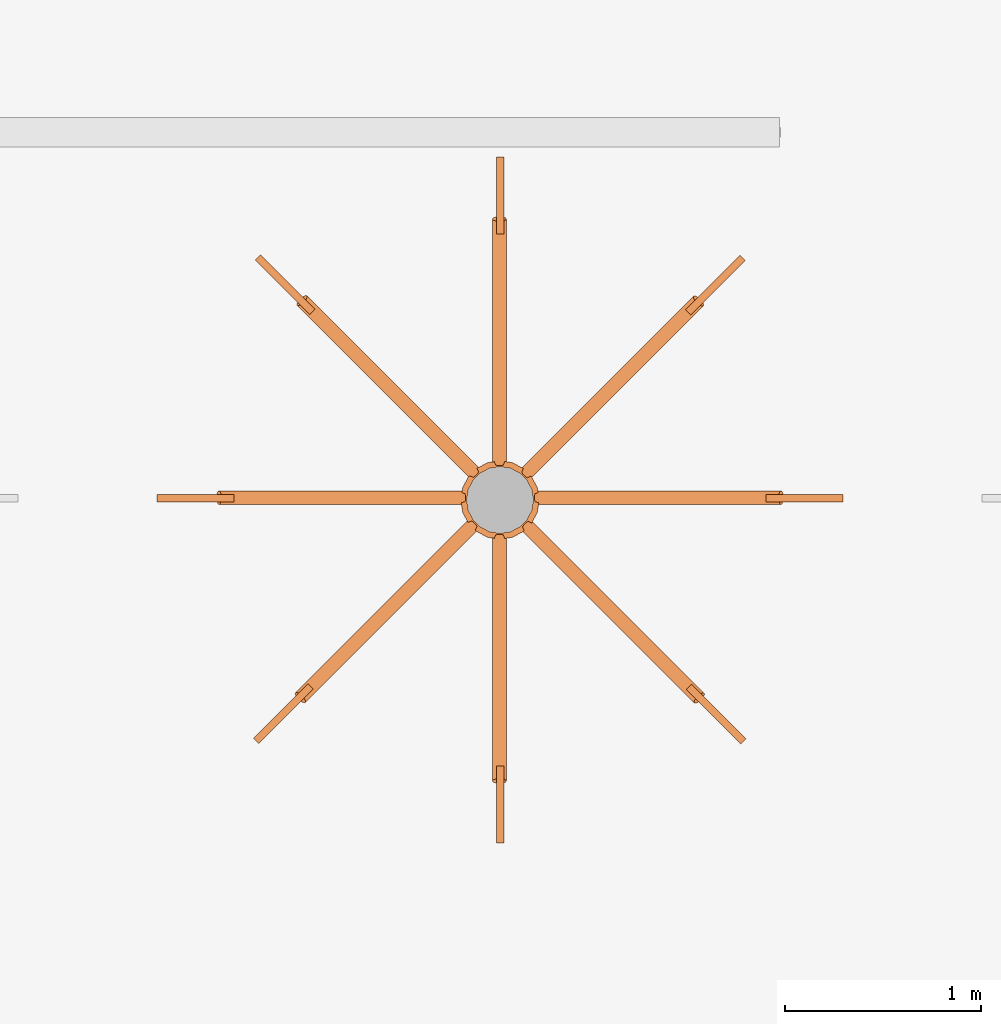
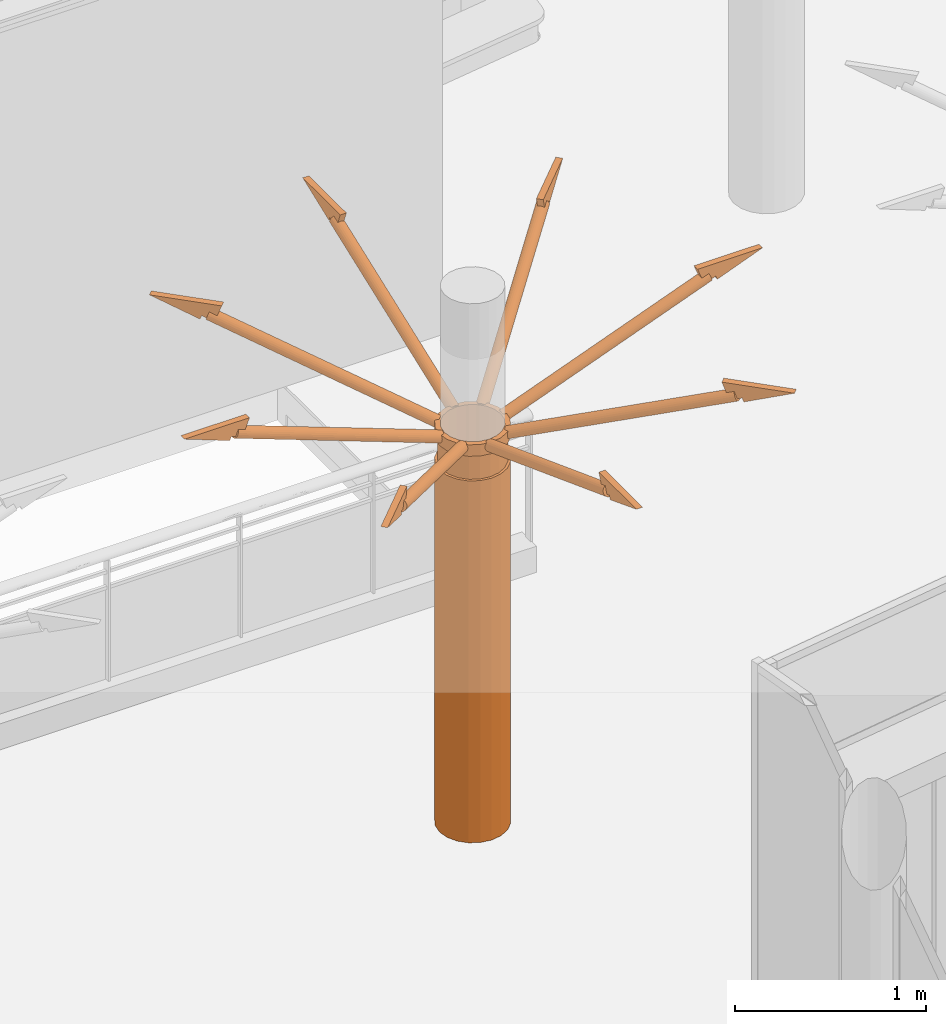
# One storey, part 61 of 65: 1 proxy.
"""IFC4 building model written with IfcOpenShell, lengths in metres."""

from ifc_helpers import new_model, entity, si_unit, converted_unit, derived_unit, direction, frame, origin, place, context, subcontext, project, spatial, indexed_curve, outline, extrude, source, transform, mapped, material, constituent, constituent_set, type_object, type_shapes, element, save


model = new_model("IFC4")

# Units and contexts
model_context = context("Model", 3, precision=1e-05, world=origin(), true_north=direction((6.12303176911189e-17, 1.0)))
body_context = subcontext(model_context, "Body", "Model", "MODEL_VIEW")
ifc_project = project(units=[si_unit("LENGTHUNIT", "METRE"), si_unit("AREAUNIT", "SQUARE_METRE"), si_unit("VOLUMEUNIT", "CUBIC_METRE"), converted_unit("PLANEANGLEUNIT", "DEGREE", entity("IfcRatioMeasure", 0.0174532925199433), si_unit("PLANEANGLEUNIT", "RADIAN"), dimensions=[0, 0, 0, 0, 0, 0, 0]), si_unit("MASSUNIT", "GRAM", prefix="KILO"), derived_unit("MASSDENSITYUNIT", [(si_unit("MASSUNIT", "GRAM", prefix="KILO"), 1), (si_unit("LENGTHUNIT", "METRE"), -3)]), derived_unit("MOMENTOFINERTIAUNIT", [(si_unit("LENGTHUNIT", "METRE"), 4)]), si_unit("TIMEUNIT", "SECOND"), si_unit("FREQUENCYUNIT", "HERTZ"), si_unit("THERMODYNAMICTEMPERATUREUNIT", "DEGREE_CELSIUS"), derived_unit("THERMALTRANSMITTANCEUNIT", [(si_unit("MASSUNIT", "GRAM", prefix="KILO"), 1), (si_unit("THERMODYNAMICTEMPERATUREUNIT", "KELVIN"), -1), (si_unit("TIMEUNIT", "SECOND"), -3)]), derived_unit("VOLUMETRICFLOWRATEUNIT", [(si_unit("LENGTHUNIT", "METRE"), 3), (si_unit("TIMEUNIT", "SECOND"), -1)]), si_unit("ELECTRICCURRENTUNIT", "AMPERE"), si_unit("ELECTRICVOLTAGEUNIT", "VOLT"), si_unit("POWERUNIT", "WATT"), si_unit("FORCEUNIT", "NEWTON", prefix="KILO"), si_unit("ILLUMINANCEUNIT", "LUX"), si_unit("LUMINOUSFLUXUNIT", "LUMEN"), si_unit("LUMINOUSINTENSITYUNIT", "CANDELA"), derived_unit("USERDEFINED", [(si_unit("MASSUNIT", "GRAM", prefix="KILO"), -1), (si_unit("LENGTHUNIT", "METRE"), -2), (si_unit("TIMEUNIT", "SECOND"), 3), (si_unit("LUMINOUSFLUXUNIT", "LUMEN"), 1)]), derived_unit("LINEARVELOCITYUNIT", [(si_unit("LENGTHUNIT", "METRE"), 1), (si_unit("TIMEUNIT", "SECOND"), -1)]), si_unit("PRESSUREUNIT", "PASCAL"), derived_unit("USERDEFINED", [(si_unit("LENGTHUNIT", "METRE"), -2), (si_unit("MASSUNIT", "GRAM", prefix="KILO"), 1), (si_unit("TIMEUNIT", "SECOND"), -2)]), derived_unit("LINEARFORCEUNIT", [(si_unit("MASSUNIT", "GRAM", prefix="KILO"), 1), (si_unit("LENGTHUNIT", "METRE"), 1), (si_unit("TIMEUNIT", "SECOND"), -2), (si_unit("LENGTHUNIT", "METRE"), -1)]), derived_unit("PLANARFORCEUNIT", [(si_unit("MASSUNIT", "GRAM", prefix="KILO"), 1), (si_unit("LENGTHUNIT", "METRE"), 1), (si_unit("TIMEUNIT", "SECOND"), -2), (si_unit("LENGTHUNIT", "METRE"), -2)])], contexts=[model_context])

# Site, building, storey
site_placement = place(None, origin())
site = spatial("IfcSite", under=ifc_project, at=site_placement, Name="Default", CompositionType="ELEMENT")
building_placement = place(site_placement, origin())
building = spatial("IfcBuilding", under=site, at=building_placement, Name="HOTEL CONSULAIRE BOULOGNE SUR MER", CompositionType="ELEMENT")
storey_placement = place(building_placement, origin())
storey = spatial("IfcBuildingStorey", under=building, at=storey_placement, Name="Niveau 0", CompositionType="ELEMENT", Elevation=1.31981936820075e-13)

# Proxy
ifc_material_1 = material(Name="Bronze", Category="Métal")
ifc_constituent_1 = constituent(ifc_material_1, Name="Bronze", Category="Matériaux")
ifc_material_2 = material(Name="Acier, carbone", Category="Métal")
ifc_constituent_2 = constituent(ifc_material_2, Name="Acier, carbone", Category="Matériaux")
ifc_constituent_set = constituent_set(constituents=[ifc_constituent_1, ifc_constituent_2], Name="MaterialConstituentSet")
building_element_proxy_type = type_object("IfcBuildingElementProxyType", Name="Modèles génériques 2:Modèles génériques 1", PredefinedType="NOTDEFINED", material=ifc_material_1)
shared_shape = source(origin(), body_context, "Body", "SweptSolid", [
    extrude(outline(indexed_curve([(-0.277248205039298, -0.059776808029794), (0.115160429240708, -0.059776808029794), (0.0851913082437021, 0.0182954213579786), (0.0431801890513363, 0.00216886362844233), (0.0317934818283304, 0.0318322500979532), (0.00544099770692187, 0.0219587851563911), (-0.00351820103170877, 0.0452982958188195), (-0.277248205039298, -0.059776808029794)], self_intersect=False)), frame((0.713250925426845, 0.701500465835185, 2.99602341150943), z_axis=(-0.70710678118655, 0.707106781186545, 0.0), x_axis=(0.707106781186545, 0.70710678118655, 0.0)), (0.0, 0.0, 1.0), 0.03781952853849),
    extrude(outline(indexed_curve([(0.035, -1.04985600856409e-15), (0.0332869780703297, 0.0108155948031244), (0.028315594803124, 0.0205724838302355), (0.0205724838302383, 0.0283155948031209), (0.0108155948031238, 0.0332869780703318), (1.1197790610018e-15, 0.0350000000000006), (-0.0108155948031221, 0.0332869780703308), (-0.0205724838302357, 0.028315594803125), (-0.0283155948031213, 0.0205724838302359), (-0.0332869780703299, 0.0108155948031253), (-0.0349999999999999, 1.43372394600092e-15), (-0.0332869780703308, -0.0108155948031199), (-0.028315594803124, -0.0205724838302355), (-0.0205724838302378, -0.0283155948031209), (-0.0108155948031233, -0.0332869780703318), (-6.12763902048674e-16, -0.0350000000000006), (0.0108155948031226, -0.0332869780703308), (0.0205724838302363, -0.0283155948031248), (0.0283155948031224, -0.0205724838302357), (0.0332869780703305, -0.0108155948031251), (0.035, -1.04985600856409e-15)], self_intersect=False)), frame((0.728885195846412, 0.739260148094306, 2.98010318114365), z_axis=(0.662156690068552, 0.662156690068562, -0.350851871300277), x_axis=(-0.248089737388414, -0.248089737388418, -0.936430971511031)), (0.0, 0.0, 1.0), 1.32737404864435),
    extrude(outline(indexed_curve([(-0.280255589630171, -0.0435504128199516), (0.0129489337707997, -0.0435504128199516), (0.0129489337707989, -0.0185504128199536), (0.0410894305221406, -0.018324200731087), (0.0410894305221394, 0.0134495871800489), (0.0860894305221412, 0.013449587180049), (0.0860894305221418, 0.0970762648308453), (-0.280255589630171, -0.0435504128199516)], self_intersect=False)), frame((1.7274101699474, 0.277248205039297, 2.99602341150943), z_axis=(1.0, 0.0, 0.0), x_axis=(0.0, 0.933580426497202, -0.358367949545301)), (0.0, 0.0, 1.0), 0.0378195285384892),
    extrude(outline(indexed_curve([(0.0349999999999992, 8.67182975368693e-17), (0.0332869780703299, 0.0108155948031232), (0.0283155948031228, 0.0205724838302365), (0.0205724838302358, 0.0283155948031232), (0.0108155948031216, 0.0332869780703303), (-5.93728164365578e-16, 0.035), (-0.0108155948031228, 0.0332869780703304), (-0.0205724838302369, 0.0283155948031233), (-0.0283155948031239, 0.0205724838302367), (-0.0332869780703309, 0.0108155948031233), (-0.0349999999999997, 1.83998484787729e-16), (-0.0332869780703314, -0.0108155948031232), (-0.0283155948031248, -0.0205724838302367), (-0.0205724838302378, -0.0283155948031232), (-0.0108155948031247, -0.0332869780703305), (-9.27317312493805e-16, -0.0349999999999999), (0.0108155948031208, -0.0332869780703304), (0.0205724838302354, -0.0283155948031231), (0.0283155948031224, -0.0205724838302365), (0.0332869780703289, -0.010815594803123), (0.0349999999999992, 8.67182975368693e-17)], self_intersect=False)), frame((1.74305519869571, 1.5579976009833, 2.51439151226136), z_axis=(0.0, -0.936430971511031, 0.350851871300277), x_axis=(0.0, -0.350851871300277, -0.936430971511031)), (0.0, 0.0, 1.0), 1.32737404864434),
    extrude(outline(indexed_curve([(-0.280255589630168, -0.0435504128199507), (0.0129489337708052, -0.0435504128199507), (0.0129489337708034, -0.0185504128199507), (0.0410894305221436, -0.0183242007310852), (0.0410894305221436, 0.0134495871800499), (0.0860894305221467, 0.0134495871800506), (0.0860894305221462, 0.097076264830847), (-0.280255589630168, -0.0435504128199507)], self_intersect=False)), frame((2.77607438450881, 0.699368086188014, 2.99602341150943), z_axis=(0.707106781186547, 0.707106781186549, 0.0), x_axis=(-0.6601410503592, 0.660141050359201, -0.358367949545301)), (0.0, 0.0, 1.0), 0.03781952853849),
    extrude(outline(indexed_curve([(0.035, -1.04985600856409e-15), (0.033286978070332, 0.0108155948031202), (0.028315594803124, 0.0205724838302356), (0.0205724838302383, 0.028315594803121), (0.0108155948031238, 0.0332869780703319), (1.186400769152e-15, 0.0350000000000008), (-0.0108155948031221, 0.033286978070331), (-0.0205724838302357, 0.028315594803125), (-0.0283155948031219, 0.0205724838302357), (-0.0332869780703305, 0.0108155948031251), (-0.0349999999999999, 1.43372394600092e-15), (-0.0332869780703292, -0.0108155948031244), (-0.0283155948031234, -0.0205724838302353), (-0.0205724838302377, -0.0283155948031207), (-0.0108155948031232, -0.0332869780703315), (-5.45084706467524e-16, -0.0350000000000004), (0.0108155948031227, -0.0332869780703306), (0.0205724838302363, -0.0283155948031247), (0.0283155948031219, -0.0205724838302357), (0.0332869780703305, -0.0108155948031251), (0.035, -1.04985600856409e-15)], self_intersect=False)), frame((1.88151050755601, 1.61605737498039, 2.51439151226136), z_axis=(0.662156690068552, -0.662156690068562, 0.350851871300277), x_axis=(0.248089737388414, -0.248089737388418, -0.936430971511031)), (0.0, 0.0, 1.0), 1.32737404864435),
    extrude(outline(indexed_curve([(-0.277248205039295, -0.0597768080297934), (0.115160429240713, -0.0597768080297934), (0.0851913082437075, 0.0182954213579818), (0.0431801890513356, 0.00216886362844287), (0.031793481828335, 0.0318322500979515), (0.00544099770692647, 0.02195878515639), (-0.00351820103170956, 0.0452982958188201), (-0.277248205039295, -0.0597768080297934)], self_intersect=False)), frame((2.77184292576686, 2.7963210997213, 2.99602341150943), z_axis=(0.707106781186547, -0.707106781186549, 0.0), x_axis=(-0.707106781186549, -0.707106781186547, 0.0)), (0.0, 0.0, 1.0), 0.0378195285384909),
    extrude(outline(indexed_curve([(0.035, 1.16429366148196e-15), (0.03328697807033, 0.0108155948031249), (0.0283155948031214, 0.0205724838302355), (0.0205724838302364, 0.0283155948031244), (0.0108155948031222, 0.0332869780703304), (-1.00451293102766e-15, 0.0350000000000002), (-0.0108155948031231, 0.0332869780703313), (-0.0205724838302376, 0.0283155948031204), (-0.0283155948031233, 0.0205724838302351), (-0.0332869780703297, 0.0108155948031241), (-0.0349999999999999, -1.26052501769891e-15), (-0.03328697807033, -0.0108155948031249), (-0.028315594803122, -0.0205724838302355), (-0.0205724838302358, -0.0283155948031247), (-0.0108155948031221, -0.0332869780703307), (1.10497423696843e-15, -0.0350000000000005), (0.0108155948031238, -0.0332869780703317), (0.0205724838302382, -0.0283155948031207), (0.0283155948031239, -0.0205724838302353), (0.0332869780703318, -0.0108155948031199), (0.035, 1.16429366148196e-15)], self_intersect=False)), frame((1.87727904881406, 1.87963181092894, 2.51439151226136), z_axis=(0.662156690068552, 0.662156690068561, 0.350851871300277), x_axis=(0.248089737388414, 0.248089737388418, -0.936430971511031)), (0.0, 0.0, 1.0), 1.32737404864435),
    extrude(outline(indexed_curve([(-0.277248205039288, -0.0597768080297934), (0.115160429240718, -0.0597768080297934), (0.0851913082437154, 0.0182954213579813), (0.0431801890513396, 0.00216886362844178), (0.0317934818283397, 0.0318322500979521), (0.0054409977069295, 0.0219587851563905), (-0.00351820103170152, 0.045298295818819), (-0.277248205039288, -0.0597768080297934)], self_intersect=False)), frame((1.72741016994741, 3.21418715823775, 2.99602341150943), z_axis=(1.0, 0.0, 0.0), x_axis=(0.0, -1.0, 0.0)), (0.0, 0.0, 1.0), 0.0378195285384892),
    extrude(outline(indexed_curve([(0.0349999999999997, -6.68832189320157e-17), (0.0332869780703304, 0.010815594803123), (0.0283155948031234, 0.0205724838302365), (0.0205724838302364, 0.0283155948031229), (0.0108155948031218, 0.0332869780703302), (6.68779268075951e-17, 0.0349999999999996), (-0.0108155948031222, 0.0332869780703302), (-0.0205724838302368, 0.0283155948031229), (-0.0283155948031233, 0.0205724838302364), (-0.0332869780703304, 0.0108155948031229), (-0.0349999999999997, -2.03833563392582e-16), (-0.0332869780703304, -0.0108155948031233), (-0.0283155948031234, -0.0205724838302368), (-0.0205724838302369, -0.0283155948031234), (-0.0108155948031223, -0.0332869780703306), (-6.68779268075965e-17, -0.0350000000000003), (0.0108155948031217, -0.0332869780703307), (0.0205724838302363, -0.0283155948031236), (0.0283155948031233, -0.0205724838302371), (0.0332869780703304, -0.0108155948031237), (0.0349999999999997, -6.68832189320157e-17)], self_intersect=False)), frame((1.74305519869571, 1.93343776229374, 2.51439151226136), z_axis=(0.0, 0.936430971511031, 0.350851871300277), x_axis=(0.0, 0.350851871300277, -0.936430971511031)), (0.0, 0.0, 1.0), 1.32737404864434),
    extrude(outline(indexed_curve([(-0.277248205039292, -0.059776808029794), (0.115160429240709, -0.059776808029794), (0.0851913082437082, 0.0182954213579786), (0.0431801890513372, 0.00216886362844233), (0.0317934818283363, 0.0318322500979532), (0.005440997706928, 0.0219587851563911), (-0.00351820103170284, 0.0452982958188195), (-0.277248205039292, -0.059776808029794)], self_intersect=False)), frame((0.694971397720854, 2.77170009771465, 2.99602341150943), z_axis=(0.707106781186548, 0.707106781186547, 0.0), x_axis=(0.707106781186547, -0.707106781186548, 0.0)), (0.0, 0.0, 1.0), 0.0378195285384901),
    extrude(outline(indexed_curve([(0.0349999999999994, -1.22011148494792e-15), (0.0332869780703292, 0.0108155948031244), (0.028315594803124, 0.0205724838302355), (0.0205724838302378, 0.0283155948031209), (0.0108155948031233, 0.0332869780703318), (5.94786615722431e-16, 0.0350000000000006), (-0.0108155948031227, 0.0332869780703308), (-0.0205724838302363, 0.0283155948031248), (-0.0283155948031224, 0.0205724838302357), (-0.0332869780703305, 0.0108155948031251), (-0.0350000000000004, 1.22011148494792e-15), (-0.0332869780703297, -0.0108155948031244), (-0.0283155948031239, -0.0205724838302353), (-0.0205724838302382, -0.0283155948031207), (-0.0108155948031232, -0.0332869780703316), (-1.10180177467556e-15, -0.0350000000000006), (0.0108155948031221, -0.0332869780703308), (0.0205724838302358, -0.0283155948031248), (0.0283155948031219, -0.0205724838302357), (0.03328697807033, -0.0108155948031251), (0.0349999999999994, -1.22011148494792e-15)], self_intersect=False)), frame((1.6162777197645, 1.88175325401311, 2.51439151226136), z_axis=(-0.662156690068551, 0.662156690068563, 0.350851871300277), x_axis=(-0.248089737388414, 0.248089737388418, -0.936430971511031)), (0.0, 0.0, 1.0), 1.32737404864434),
    extrude(outline(indexed_curve([(-0.280255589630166, -0.0435504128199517), (0.0129489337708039, -0.0435504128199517), (0.0129489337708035, -0.0185504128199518), (0.0410894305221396, -0.0183242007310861), (0.0410894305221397, 0.0134495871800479), (0.08608943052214, 0.0134495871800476), (0.0860894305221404, 0.0970762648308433), (-0.280255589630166, -0.0435504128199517)], self_intersect=False)), frame((3.21418736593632, 1.73554318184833, 2.99602341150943), z_axis=(0.0, 1.0, 0.0), x_axis=(-0.933580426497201, 0.0, -0.358367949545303)), (0.0, 0.0, 1.0), 0.0378195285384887),
    extrude(outline(indexed_curve([(0.0349999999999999, -4.16541532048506e-17), (0.0332869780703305, 0.0108155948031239), (0.0283155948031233, 0.0205724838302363), (0.0205724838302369, 0.0283155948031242), (0.0108155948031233, 0.0332869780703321), (-5.83659163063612e-18, 0.0350000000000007), (-0.0108155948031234, 0.0332869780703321), (-0.0205724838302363, 0.0283155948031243), (-0.0283155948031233, 0.0205724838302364), (-0.0332869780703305, 0.0108155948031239), (-0.0349999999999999, 4.16541532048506e-17), (-0.0332869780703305, -0.0108155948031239), (-0.0283155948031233, -0.0205724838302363), (-0.0205724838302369, -0.0283155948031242), (-0.0108155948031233, -0.0332869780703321), (5.83659163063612e-18, -0.0350000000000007), (0.0108155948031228, -0.0332869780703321), (0.0205724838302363, -0.0283155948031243), (0.0283155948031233, -0.0205724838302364), (0.0332869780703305, -0.0108155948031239), (0.0349999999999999, -4.16541532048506e-17)], self_intersect=False)), frame((1.93343796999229, 1.75771768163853, 2.51439151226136), z_axis=(0.936430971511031, 0.0, 0.350851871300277), x_axis=(0.350851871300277, 0.0, -0.936430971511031)), (0.0, 0.0, 1.0), 1.32737404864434),
    extrude(outline(indexed_curve([(-0.277248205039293, -0.059776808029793), (0.115160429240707, -0.059776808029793), (0.0851913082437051, 0.0182954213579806), (0.0431801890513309, 0.00216886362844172), (0.0317934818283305, 0.0318322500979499), (0.00544099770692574, 0.0219587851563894), (-0.00351820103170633, 0.0452982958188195), (-0.277248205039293, -0.059776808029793)], self_intersect=False)), frame((0.277248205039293, 1.73554318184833, 2.99602341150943), z_axis=(0.0, 1.0, 0.0), x_axis=(1.0, 0.0, 0.0)), (0.0, 0.0, 1.0), 0.0378195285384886),
    extrude(outline(indexed_curve([(0.0349999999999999, 4.16541532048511e-17), (0.0332869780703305, 0.0108155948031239), (0.0283155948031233, 0.0205724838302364), (0.0205724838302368, 0.0283155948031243), (0.0108155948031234, 0.0332869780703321), (5.33273364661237e-17, 0.0350000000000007), (-0.0108155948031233, 0.0332869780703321), (-0.0205724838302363, 0.0283155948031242), (-0.0283155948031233, 0.0205724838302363), (-0.0332869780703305, 0.0108155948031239), (-0.0349999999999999, -4.16541532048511e-17), (-0.0332869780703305, -0.0108155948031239), (-0.0283155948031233, -0.0205724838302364), (-0.0205724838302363, -0.0283155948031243), (-0.0108155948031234, -0.0332869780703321), (4.16541532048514e-17, -0.0350000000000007), (0.0108155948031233, -0.0332869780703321), (0.0205724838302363, -0.0283155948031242), (0.0283155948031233, -0.0205724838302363), (0.0332869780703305, -0.0108155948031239), (0.0349999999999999, 4.16541532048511e-17)], self_intersect=False)), frame((1.55799760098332, 1.75771768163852, 2.51439151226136), z_axis=(-0.936430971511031, 0.0, 0.350851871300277), x_axis=(-0.350851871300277, 0.0, -0.936430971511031)), (0.0, 0.0, 1.0), 1.32737404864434),
    extrude(outline(indexed_curve([(0.199999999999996, 0.0), (0.190211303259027, 0.0618033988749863), (0.161803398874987, 0.11755705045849), (0.117557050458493, 0.161803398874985), (0.0618033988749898, 0.190211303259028), (2.16573425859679e-15, 0.199999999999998), (-0.0618033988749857, 0.190211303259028), (-0.11755705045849, 0.16180339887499), (-0.161803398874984, 0.117557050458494), (-0.190211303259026, 0.0618033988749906), (-0.199999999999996, 4.33146851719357e-15), (-0.190211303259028, -0.0618033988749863), (-0.161803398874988, -0.11755705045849), (-0.117557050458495, -0.161803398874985), (-0.0618033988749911, -0.190211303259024), (-2.97788460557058e-15, -0.199999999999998), (0.0618033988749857, -0.190211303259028), (0.11755705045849, -0.161803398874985), (0.161803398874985, -0.117557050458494), (0.190211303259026, -0.0618033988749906), (0.199999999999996, 0.0)], self_intersect=False), holes=[indexed_curve([(-0.169999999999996, 0.0), (-0.161679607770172, 0.0525328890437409), (-0.137532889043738, 0.0999234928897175), (-0.0999234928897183, 0.137532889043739), (-0.0525328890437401, 0.161679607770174), (-5.41433564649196e-16, 0.169999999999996), (0.0525328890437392, 0.161679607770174), (0.0999234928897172, 0.137532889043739), (0.137532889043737, 0.0999234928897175), (0.161679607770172, 0.0525328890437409), (0.169999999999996, 0.0), (0.161679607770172, -0.0525328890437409), (0.137532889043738, -0.0999234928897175), (0.0999234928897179, -0.137532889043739), (0.0525328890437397, -0.161679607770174), (0.0, -0.169999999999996), (-0.0525328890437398, -0.161679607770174), (-0.0999234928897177, -0.137532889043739), (-0.137532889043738, -0.0999234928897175), (-0.161679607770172, -0.0525328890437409), (-0.169999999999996, 0.0)], self_intersect=False)]), frame((1.74571778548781, 1.74571768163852, 2.46815840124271)), (0.0, 0.0, 1.0), 0.073394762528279),
    extrude(outline(indexed_curve([(-0.184999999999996, 0.0), (-0.175945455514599, -0.0571681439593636), (-0.149668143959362, -0.108740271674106), (-0.108740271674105, -0.14966814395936), (-0.0571681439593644, -0.175945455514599), (-8.12150346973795e-16, -0.184999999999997), (0.0571681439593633, -0.175945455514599), (0.108740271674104, -0.149668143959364), (0.149668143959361, -0.108740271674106), (0.175945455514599, -0.0571681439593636), (0.184999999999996, 0.0), (0.175945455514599, 0.0571681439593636), (0.149668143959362, 0.108740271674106), (0.108740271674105, 0.14966814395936), (0.057168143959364, 0.175945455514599), (0.0, 0.184999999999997), (-0.0571681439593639, 0.175945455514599), (-0.108740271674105, 0.14966814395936), (-0.149668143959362, 0.108740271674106), (-0.175945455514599, 0.0571681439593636), (-0.184999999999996, 0.0)], self_intersect=False), holes=[indexed_curve([(0.169999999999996, 0.0), (0.161679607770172, -0.0525328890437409), (0.137532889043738, -0.0999234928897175), (0.0999234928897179, -0.137532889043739), (0.0525328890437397, -0.161679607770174), (0.0, -0.169999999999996), (-0.0525328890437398, -0.161679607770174), (-0.0999234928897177, -0.137532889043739), (-0.137532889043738, -0.0999234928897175), (-0.161679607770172, -0.0525328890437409), (-0.169999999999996, 0.0), (-0.161679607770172, 0.0525328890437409), (-0.137532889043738, 0.0999234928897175), (-0.0999234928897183, 0.137532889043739), (-0.0525328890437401, 0.161679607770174), (-5.41433564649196e-16, 0.169999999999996), (0.0525328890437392, 0.161679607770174), (0.0999234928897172, 0.137532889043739), (0.137532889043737, 0.0999234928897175), (0.161679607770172, 0.0525328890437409), (0.169999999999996, 0.0)], self_intersect=False)]), frame((1.74571778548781, 1.74571768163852, 2.31091744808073)), (0.0, 0.0, 1.0), 0.15724095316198),
    extrude(outline(indexed_curve([(0.199999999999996, 0.0), (0.190211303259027, 0.0618033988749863), (0.161803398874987, 0.11755705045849), (0.117557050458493, 0.161803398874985), (0.0618033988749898, 0.190211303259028), (2.16573425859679e-15, 0.199999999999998), (-0.0618033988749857, 0.190211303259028), (-0.11755705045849, 0.16180339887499), (-0.161803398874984, 0.117557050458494), (-0.190211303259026, 0.0618033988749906), (-0.199999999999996, 4.33146851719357e-15), (-0.190211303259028, -0.0618033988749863), (-0.161803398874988, -0.11755705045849), (-0.117557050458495, -0.161803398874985), (-0.0618033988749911, -0.190211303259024), (-2.97788460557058e-15, -0.199999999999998), (0.0618033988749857, -0.190211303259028), (0.11755705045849, -0.161803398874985), (0.161803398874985, -0.117557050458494), (0.190211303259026, -0.0618033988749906), (0.199999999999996, 0.0)], self_intersect=False), holes=[indexed_curve([(-0.169999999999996, 0.0), (-0.161679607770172, 0.0525328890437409), (-0.137532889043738, 0.0999234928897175), (-0.0999234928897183, 0.137532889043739), (-0.0525328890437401, 0.161679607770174), (-5.41433564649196e-16, 0.169999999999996), (0.0525328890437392, 0.161679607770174), (0.0999234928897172, 0.137532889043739), (0.137532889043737, 0.0999234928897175), (0.161679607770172, 0.0525328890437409), (0.169999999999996, 0.0), (0.161679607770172, -0.0525328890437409), (0.137532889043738, -0.0999234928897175), (0.0999234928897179, -0.137532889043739), (0.0525328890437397, -0.161679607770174), (0.0, -0.169999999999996), (-0.0525328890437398, -0.161679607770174), (-0.0999234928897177, -0.137532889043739), (-0.137532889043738, -0.0999234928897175), (-0.161679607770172, -0.0525328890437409), (-0.169999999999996, 0.0)], self_intersect=False)]), frame((1.74571778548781, 1.74571768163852, 0.0)), (0.0, 0.0, 1.0), 2.31091744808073),
])
type_shapes(building_element_proxy_type, [shared_shape])
proxy_placement = place(storey_placement, frame((1.22545898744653, -25.7616274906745, 0.0)))
element("IfcBuildingElementProxy", 1, at=proxy_placement, inside=storey, type_object=building_element_proxy_type, material=ifc_constituent_set, Name="Modèles génériques 2:Modèles génériques 1", ObjectType="Modèles génériques 2:Modèles génériques 1", PredefinedType="NOTDEFINED", context=body_context, shape_type="MappedRepresentation", body=[
    mapped(shared_shape, transform((0.0, 0.0, 0.0), scale=1.0)),
])

save(model, "model.ifc")
